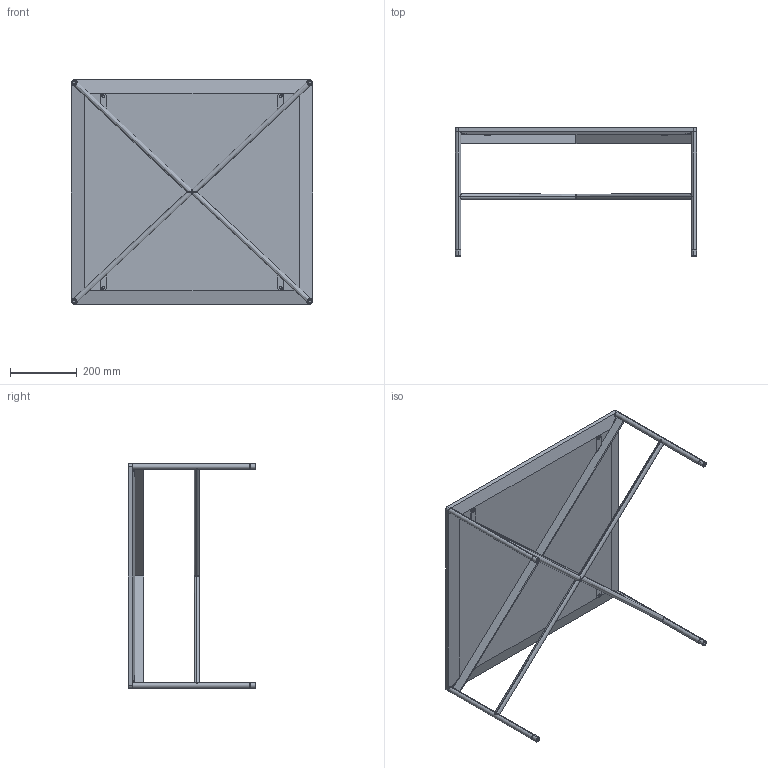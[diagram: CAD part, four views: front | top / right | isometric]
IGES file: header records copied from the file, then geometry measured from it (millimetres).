
Start section: SolidWorks IGES file using analytic representation for surfaces
Global section: file name: W:\design\GORDON GUILLAUMIER\Chill-Out\modelli 3d aggiornati\tavolo 72x67.IGS; native system: SolidWorks 2010; preprocessor: SolidWorks 2010; author: PC20; date: 140714.194339; units: millimetre
Bounding box: 720 x 382 x 670 mm (x, y, z)
Surface area: 1377504.4 mm2 (no closed solid volume)
Topology: 0 solids, 0 shells, 204 faces, 5536 edges, 6432 vertices
Faces by surface type: revolution 108, bspline 96
